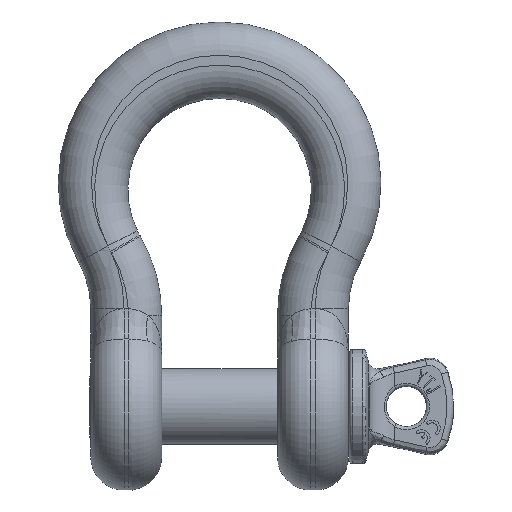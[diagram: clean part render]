
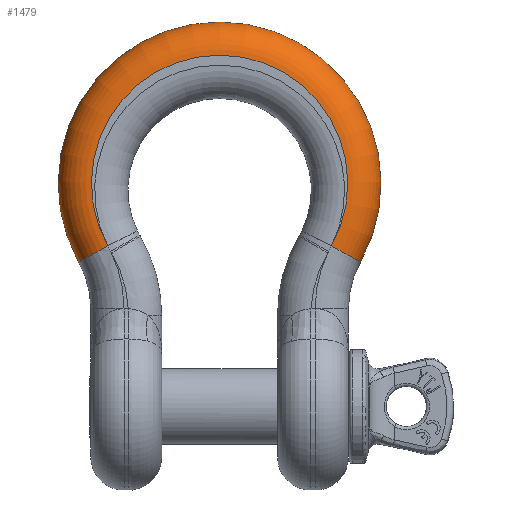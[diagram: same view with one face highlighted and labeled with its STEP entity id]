
A CAD part, top view. The second image highlights one B-rep face of the part: STEP entity #1479.
In plain terms, the highlighted toroidal (fillet/blend) face has major radius 40.5 mm and minor radius 10.5 mm.
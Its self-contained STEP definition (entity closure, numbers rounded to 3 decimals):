
#461=TOROIDAL_SURFACE('',#10558,40.5,10.5);
#1479=ADVANCED_FACE('',(#2280),#461,.T.);
#2280=FACE_OUTER_BOUND('',#2831,.T.);
#2831=EDGE_LOOP('',(#4179,#4180,#4181,#4182,#4183,#4184));
#3448=CIRCLE('',#10498,40.5);
#3460=CIRCLE('',#10515,51.);
#3483=CIRCLE('',#10550,10.5);
#3486=CIRCLE('',#10555,10.5);
#3487=CIRCLE('',#10556,40.5);
#3488=CIRCLE('',#10557,40.5);
#4179=ORIENTED_EDGE('',*,*,#8163,.F.);
#4180=ORIENTED_EDGE('',*,*,#8110,.F.);
#4181=ORIENTED_EDGE('',*,*,#8167,.T.);
#4182=ORIENTED_EDGE('',*,*,#8168,.F.);
#4183=ORIENTED_EDGE('',*,*,#8089,.F.);
#4184=ORIENTED_EDGE('',*,*,#8169,.F.);
#7034=VERTEX_POINT('',#15381);
#7035=VERTEX_POINT('',#15382);
#7051=VERTEX_POINT('',#15420);
#7052=VERTEX_POINT('',#15424);
#7094=VERTEX_POINT('',#15601);
#7095=VERTEX_POINT('',#15615);
#8089=EDGE_CURVE('',#7034,#7035,#3448,.T.);
#8110=EDGE_CURVE('',#7052,#7051,#3460,.T.);
#8163=EDGE_CURVE('',#7051,#7094,#3483,.T.);
#8167=EDGE_CURVE('',#7052,#7095,#3486,.T.);
#8168=EDGE_CURVE('',#7035,#7095,#3487,.T.);
#8169=EDGE_CURVE('',#7094,#7034,#3488,.T.);
#10498=AXIS2_PLACEMENT_3D('',#15380,#11283,#11284);
#10515=AXIS2_PLACEMENT_3D('',#15425,#11326,#11327);
#10550=AXIS2_PLACEMENT_3D('',#15600,#11411,#11412);
#10555=AXIS2_PLACEMENT_3D('',#15614,#11421,#11422);
#10556=AXIS2_PLACEMENT_3D('',#15616,#11423,#11424);
#10557=AXIS2_PLACEMENT_3D('',#15617,#11425,#11426);
#10558=AXIS2_PLACEMENT_3D('',#15618,#11427,#11428);
#11283=DIRECTION('',(0.,0.,1.));
#11284=DIRECTION('',(-1.,0.,0.));
#11326=DIRECTION('',(0.,0.,-1.));
#11327=DIRECTION('',(-1.,0.,0.));
#11411=DIRECTION('',(-0.488,-0.873,0.));
#11412=DIRECTION('',(-0.873,0.488,0.));
#11421=DIRECTION('',(-0.488,0.873,0.));
#11422=DIRECTION('',(0.873,0.488,0.));
#11423=DIRECTION('',(0.,0.,1.));
#11424=DIRECTION('',(-1.,0.,0.));
#11425=DIRECTION('',(0.,0.,1.));
#11426=DIRECTION('',(-1.,0.,0.));
#11427=DIRECTION('',(0.,0.,-1.));
#11428=DIRECTION('',(-1.,0.,0.));
#15380=CARTESIAN_POINT('',(0.,0.,11.2));
#15381=CARTESIAN_POINT('',(35.373,-19.723,11.2));
#15382=CARTESIAN_POINT('',(-35.373,-19.723,11.2));
#15420=CARTESIAN_POINT('',(44.515,-24.888,0.7));
#15424=CARTESIAN_POINT('',(-44.515,-24.888,0.7));
#15425=CARTESIAN_POINT('',(0.,0.,0.7));
#15600=CARTESIAN_POINT('',(35.35,-19.764,0.7));
#15601=CARTESIAN_POINT('',(35.35,-19.764,11.2));
#15614=CARTESIAN_POINT('',(-35.35,-19.764,0.7));
#15615=CARTESIAN_POINT('',(-35.35,-19.764,11.2));
#15616=CARTESIAN_POINT('',(0.,0.,11.2));
#15617=CARTESIAN_POINT('',(0.,0.,11.2));
#15618=CARTESIAN_POINT('',(0.,0.,0.7));
